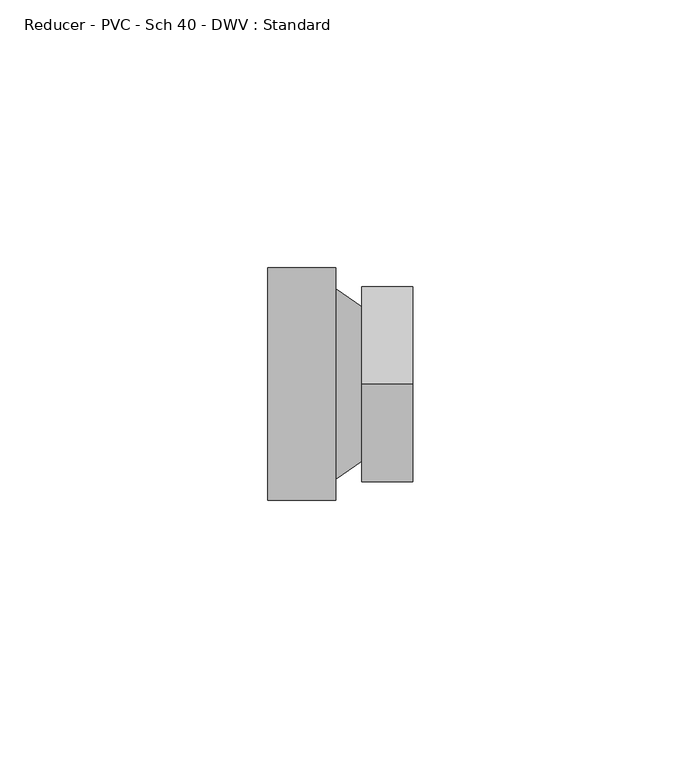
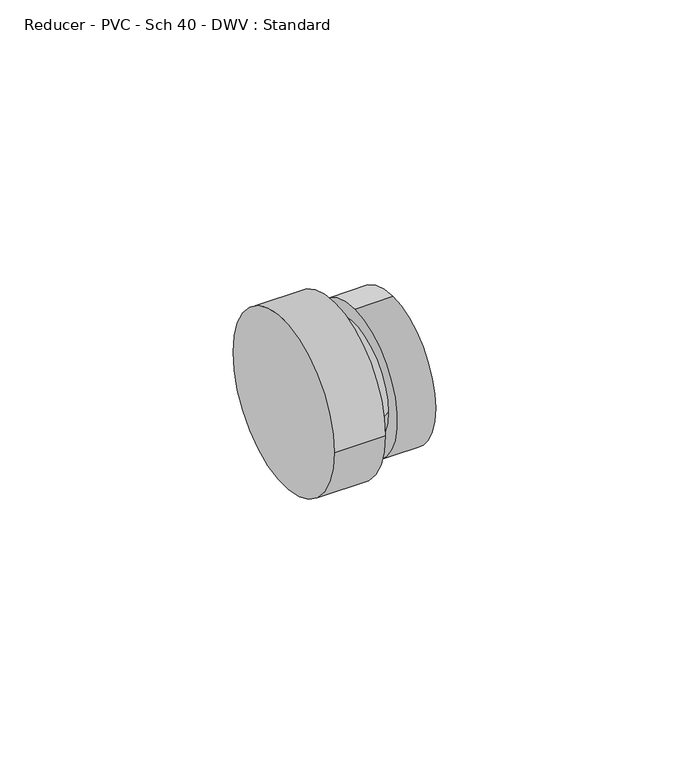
"""IFC4 building model written with IfcOpenShell, lengths in millimetres: pipe fitting geometry, Reducer - PVC - Sch 40 - DWV : Standard."""

import ifcopenshell
import ifcopenshell.guid

model = None  # the IFC model being written
_history = None  # IfcOwnerHistory: only IFC2X3 demands one
_inside = {}  # id of a spatial element -> (the spatial element, [elements in it])
_under = {}  # id of a project, library or spatial element -> (it, [spatial elements below it])
_declared = {}  # id of a project -> (the project, [libraries it declares])
_typed = {}  # id of a type object -> (the type object, [elements of that type])
_made_of = {}  # id of a material, layer set ... -> (it, [elements and type objects made of it])


def new_model(schema):
    """Start an empty IFC model of exactly this schema.

    Asked for "IFC4X3", IfcOpenShell would pick the latest addendum, in which some entities
    have other attributes; the version numbers below select the first issue.
    IFC2X3 requires an IfcOwnerHistory on every rooted entity: one is made here for all.
    """
    global model, _history
    if schema == "IFC4X3":
        model = ifcopenshell.file(schema_version=(4, 3, 0, 0))
    else:
        model = ifcopenshell.file(schema=schema)
    _inside.clear()
    _under.clear()
    _declared.clear()
    _typed.clear()
    _made_of.clear()
    _history = None
    if model.schema == "IFC2X3":
        org = make("IfcOrganization", Name="unknown")
        user = make(
            "IfcPersonAndOrganization",
            ThePerson=make("IfcPerson", FamilyName="unknown"),
            TheOrganization=org,
        )
        app = make(
            "IfcApplication",
            ApplicationDeveloper=org,
            Version="unknown",
            ApplicationFullName="unknown",
            ApplicationIdentifier="unknown",
        )
        _history = make(
            "IfcOwnerHistory",
            OwningUser=user,
            OwningApplication=app,
            ChangeAction="ADDED",
            CreationDate=0,
        )
    return model


def make(cls, **values):
    """One entity of the class cls with the attributes given. An attribute that is None is left unset."""
    return model.create_entity(
        cls, **{name: value for name, value in values.items() if value is not None}
    )


def rooted(cls, **values):
    """An entity with a GlobalId (a new one), such as an element, a storey or a relation."""
    return make(cls, GlobalId=ifcopenshell.guid.new(), OwnerHistory=_history, **values)


def si_unit(unit_type, name, prefix=None):
    """IfcSIUnit, for example si_unit("LENGTHUNIT", "METRE", prefix="MILLI")."""
    return make("IfcSIUnit", UnitType=unit_type, Prefix=prefix, Name=name)


def assignment(units):
    """IfcUnitAssignment: the units of a project."""
    return None if units is None else make("IfcUnitAssignment", Units=units)


def point(xyz):
    """IfcCartesianPoint."""
    return None if xyz is None else make("IfcCartesianPoint", Coordinates=xyz)


def direction(xyz):
    """IfcDirection."""
    return None if xyz is None else make("IfcDirection", DirectionRatios=xyz)


def frame(location, z_axis=None, x_axis=None):
    """IfcAxis2Placement3D, a coordinate frame: its origin and axes. An axis left out is left unset."""
    return make(
        "IfcAxis2Placement3D",
        Location=point(location),
        Axis=direction(z_axis),
        RefDirection=direction(x_axis),
    )


def origin():
    """The frame at (0, 0, 0) with its axes left unset."""
    return frame((0.0, 0.0, 0.0))


def place(relative_to, where):
    """IfcLocalPlacement: puts the frame where relative to a parent placement (None: the world)."""
    return make(
        "IfcLocalPlacement", PlacementRelTo=relative_to, RelativePlacement=where
    )


def context(
    kind, dimensions, precision=None, world=None, true_north=None, identifier=None
):
    """IfcGeometricRepresentationContext, for example the 3D "Model" context."""
    return make(
        "IfcGeometricRepresentationContext",
        ContextIdentifier=identifier,
        ContextType=kind,
        CoordinateSpaceDimension=dimensions,
        Precision=precision,
        WorldCoordinateSystem=world,
        TrueNorth=true_north,
    )


def project(units=None, contexts=None):
    """IfcProject with its units and contexts."""
    return rooted(
        "IfcProject",
        Name="project",
        RepresentationContexts=contexts,
        UnitsInContext=assignment(units),
    )


def spatial(cls, under=None, at=None, **own):
    """A site, building, storey or space (cls), placed at a placement, below another one or the project."""
    s = rooted(cls, ObjectPlacement=at, **own)
    if under is not None:
        _under.setdefault(under.id(), (under, []))[1].append(s)
    return s


def polyline(points):
    """IfcPolyline through the points."""
    return make("IfcPolyline", Points=[point(p) for p in points])


def circle_curve(where, radius):
    """IfcCircle in the frame where."""
    return make("IfcCircle", Position=where, Radius=radius)


def shape(context_of_items, identifier, shape_type, items):
    """IfcShapeRepresentation: the items that make up one representation, for example the "Body"."""
    return make(
        "IfcShapeRepresentation",
        ContextOfItems=context_of_items,
        RepresentationIdentifier=identifier,
        RepresentationType=shape_type,
        Items=items,
    )


def source(mapping_origin, context_of_items, identifier, shape_type, items):
    """IfcRepresentationMap: a shape defined once, which mapped items show again and again."""
    return make(
        "IfcRepresentationMap",
        MappingOrigin=mapping_origin,
        MappedRepresentation=shape(context_of_items, identifier, shape_type, items),
    )


def transform(
    local_origin,
    x_axis=None,
    y_axis=None,
    z_axis=None,
    scale=None,
    scale2=None,
    scale3=None,
    uniform=True,
):
    """IfcCartesianTransformationOperator3D, or its non-uniform kind. x_axis, y_axis, z_axis: its Axis1, 2, 3."""
    if uniform:
        return make(
            "IfcCartesianTransformationOperator3D",
            Axis1=direction(x_axis),
            Axis2=direction(y_axis),
            LocalOrigin=point(local_origin),
            Scale=scale,
            Axis3=direction(z_axis),
        )
    return make(
        "IfcCartesianTransformationOperator3DnonUniform",
        Axis1=direction(x_axis),
        Axis2=direction(y_axis),
        LocalOrigin=point(local_origin),
        Scale=scale,
        Axis3=direction(z_axis),
        Scale2=scale2,
        Scale3=scale3,
    )


def mapped(mapping_source, mapping_target):
    """IfcMappedItem: shows the shape of a source again, moved by a transform."""
    return make(
        "IfcMappedItem", MappingSource=mapping_source, MappingTarget=mapping_target
    )


def made_of(thing, what):
    """Note that an element or type object is made of a material, layer set ...; save() writes the relation."""
    if what is not None:
        _made_of.setdefault(what.id(), (what, []))[1].append(thing)
    return thing


def element(
    cls,
    number,
    at=None,
    inside=None,
    cuts=None,
    type_object=None,
    material=None,
    context=None,
    identifier="Body",
    shape_type=None,
    held_by="IfcProductDefinitionShape",
    body=None,
    shapes=None,
    **own,
):
    """One element of the class cls, such as IfcWall. Its Tag is "e" and its number.

    at: its placement. inside: the storey or other place that contains it. cuts: it is an
    opening in that element (IfcRelVoidsElement). A single representation is given by context,
    identifier, shape_type and body (its items); several are given by shapes. held_by: the class
    of the entity that holds the representations. save() writes the other relations.
    """
    e = rooted(cls, Tag="e%d" % number, ObjectPlacement=at, **own)
    if body is not None:
        shapes = [shape(context, identifier, shape_type, body)]
    if shapes is not None:
        e.Representation = make(held_by, Representations=shapes)
    if inside is not None:
        _inside.setdefault(inside.id(), (inside, []))[1].append(e)
    if cuts is not None:
        rooted(
            "IfcRelVoidsElement", RelatingBuildingElement=cuts, RelatedOpeningElement=e
        )
    if type_object is not None:
        _typed.setdefault(type_object.id(), (type_object, []))[1].append(e)
    return made_of(e, material)


def aggregate(whole, parts):
    """IfcRelAggregates: a whole, such as a stair, and the parts it consists of."""
    return rooted("IfcRelAggregates", RelatingObject=whole, RelatedObjects=parts)


def save(model, path):
    """Write the relations noted so far, then the file.

    IfcRelAggregates (storeys below a building ...), IfcRelContainedInSpatialStructure (elements
    in a storey), IfcRelDefinesByType, IfcRelAssociatesMaterial and IfcRelDeclares: one each for
    every whole, place, type object, material and project.
    """
    for whole, parts in _under.values():
        aggregate(whole, parts)
    for where, things in _inside.values():
        rooted(
            "IfcRelContainedInSpatialStructure",
            RelatedElements=things,
            RelatingStructure=where,
        )
    for kind, things in _typed.values():
        rooted("IfcRelDefinesByType", RelatedObjects=things, RelatingType=kind)
    for what, things in _made_of.values():
        rooted("IfcRelAssociatesMaterial", RelatedObjects=things, RelatingMaterial=what)
    for by, libraries in _declared.values():
        rooted("IfcRelDeclares", RelatingContext=by, RelatedDefinitions=libraries)
    model.write(path)


def plane_surface(at):
    """IfcPlane: the flat surface through the origin of the frame at, square to its z axis."""
    return make("IfcPlane", Position=at)


def cylinder_surface(at, radius):
    """IfcCylindricalSurface: all points at the distance radius from the z axis of the frame at."""
    return make("IfcCylindricalSurface", Position=at, Radius=radius)


def revolved_surface(curve, axis_point, axis_direction):
    """IfcSurfaceOfRevolution: the curve turned about the line through axis_point along axis_direction."""
    return make(
        "IfcSurfaceOfRevolution",
        SweptCurve=make("IfcArbitraryOpenProfileDef", ProfileType="CURVE", Curve=curve),
        AxisPosition=make("IfcAxis1Placement", Location=point(axis_point), Axis=direction(axis_direction)),
    )


def advanced_brep(points, edges, surfaces, faces):
    """IfcAdvancedBrep: a solid bounded by faces that lie on surfaces and meet in shared edges.

    An edge is (start, end): straight between two places in points (the first is 0);
    or (start, end, curve); or (start, end, curve, False) where it runs against its curve.
    A face is (place in surfaces, loops), or (place, loops, False) where it looks against
    its surface's normal. A loop lists edges by number (the first is 1), with a minus sign
    where the edge is run from its end to its start. The first loop is the outer one.
    """
    corners = [point(p) for p in points]
    vertices = [make("IfcVertexPoint", VertexGeometry=c) for c in corners]
    made = []
    for start, end, *more in edges:
        made.append(
            make(
                "IfcEdgeCurve",
                EdgeStart=vertices[start],
                EdgeEnd=vertices[end],
                EdgeGeometry=more[0] if more else make("IfcPolyline", Points=[corners[start], corners[end]]),
                SameSense=more[1] if len(more) > 1 else True,
            )
        )
    hull = []
    for where, loops, *sense in faces:
        bounds = []
        for j, loop in enumerate(loops):
            ring = [make("IfcOrientedEdge", EdgeElement=made[abs(k) - 1], Orientation=k > 0) for k in loop]
            bounds.append(
                make(
                    "IfcFaceOuterBound" if j == 0 else "IfcFaceBound",
                    Bound=make("IfcEdgeLoop", EdgeList=ring),
                    Orientation=True,
                )
            )
        hull.append(make("IfcAdvancedFace", Bounds=bounds, FaceSurface=surfaces[where], SameSense=sense[0] if sense else True))
    return make("IfcAdvancedBrep", Outer=make("IfcClosedShell", CfsFaces=hull))


def reducer_pvc_sch_40_dwv_standard_0d64fc83(model_context):
    return source(origin(), model_context, "Body", "AdvancedBrep", [
        advanced_brep(
        [(0.0, -21.7031094, 0.0), (0.0, 21.7031094, 0.0), (12.7, -21.7031094, 0.0), (12.7, 21.7031094, 0.0), (12.7, 17.7720625, 0.0), (12.7, -17.7720625, 0.0), (17.5775938, 14.4700625, 0.0), (17.5775937, -14.4700625, 0.0), (17.5775938, 0.0, 18.2741094), (17.5775938, 0.0, -18.2741094), (27.1025938, 0.0, 18.2741094), (27.1025938, 0.0, -18.2741094)],
        [
            (0, 1, circle_curve(frame((0.0, 0.0, 0.0), z_axis=(-1.0, 0.0, 0.0), x_axis=(0.0, 1.0, 0.0)), 21.7031094)),
            (1, 0, circle_curve(frame((0.0, 0.0, 0.0), z_axis=(-1.0, 0.0, 0.0), x_axis=(0.0, 1.0, 0.0)), 21.7031094)),
            (2, 3, circle_curve(frame((12.7, 0.0, 0.0), z_axis=(1.0, 0.0, 0.0), x_axis=(0.0, 1.0, 0.0)), 21.7031094)),
            (3, 2, circle_curve(frame((12.7, 0.0, 0.0), z_axis=(1.0, 0.0, 0.0), x_axis=(0.0, 1.0, 0.0)), 21.7031094)),
            (4, 5, circle_curve(frame((12.7, 0.0, 0.0), z_axis=(-1.0, 1.2071710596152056e-12, 0.0), x_axis=(-1.2070766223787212e-12, -1.0, 0.0)), 17.7720625)),
            (5, 4, circle_curve(frame((12.7, 0.0, 0.0), z_axis=(-1.0, 1.2071710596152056e-12, 0.0), x_axis=(1.2070766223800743e-12, 1.0, 0.0)), 17.7720625)),
            (0, 2),
            (3, 1),
            (4, 6),
            (6, 7, circle_curve(frame((17.5775938, 0.0, 0.0), z_axis=(-1.0, 1.2071710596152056e-12, 0.0), x_axis=(-1.2070766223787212e-12, -1.0, 0.0)), 14.4700625)),
            (7, 5),
            (7, 6, circle_curve(frame((17.5775938, 0.0, 0.0), z_axis=(-1.0, 1.2071710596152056e-12, 0.0), x_axis=(1.2070766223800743e-12, 1.0, 0.0)), 14.4700625)),
            (8, 9, circle_curve(frame((17.5775938, 0.0, 0.0), z_axis=(-1.0, 0.0, 0.0), x_axis=(0.0, 0.0, -1.0)), 18.2741094)),
            (9, 8, circle_curve(frame((17.5775938, 0.0, 0.0), z_axis=(-1.0, 0.0, 0.0), x_axis=(0.0, 0.0, -1.0)), 18.2741094)),
            (10, 11, circle_curve(frame((27.1025938, 0.0, 0.0), z_axis=(1.0, 0.0, 0.0), x_axis=(0.0, 0.0, -1.0)), 18.2741094)),
            (11, 10, circle_curve(frame((27.1025938, 0.0, 0.0), z_axis=(1.0, 0.0, 0.0), x_axis=(0.0, 0.0, -1.0)), 18.2741094)),
            (8, 10),
            (11, 9),
        ],
        [
            plane_surface(frame((0.0, 0.0, 0.0), z_axis=(-1.0, 0.0, 0.0), x_axis=(0.0, 0.0, 1.0))),
            plane_surface(frame((12.7, 0.0, 0.0), z_axis=(1.0, 0.0, 0.0), x_axis=(0.0, 0.0, 1.0))),
            cylinder_surface(frame((0.0, 0.0, 0.0), z_axis=(-1.0, 0.0, 0.0), x_axis=(0.0, 1.0, 0.0)), 21.7031094),
            revolved_surface(polyline([(17.577593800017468, 14.470062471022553, 0.0), (12.7, 17.7720625, 0.0)]), (38.9522414, 0.0, 0.0), (-1.0, 1.2071710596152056e-12, 0.0)),
            plane_surface(frame((17.5775938, 0.0, 0.0), z_axis=(-1.0, 0.0, 0.0), x_axis=(0.0, 1.0, 0.0))),
            plane_surface(frame((27.1025938, 0.0, 0.0), z_axis=(1.0, 0.0, 0.0), x_axis=(0.0, 1.0, 0.0))),
            cylinder_surface(frame((17.5775938, 0.0, 0.0), z_axis=(-1.0, 0.0, 0.0), x_axis=(0.0, 0.0, -1.0)), 18.2741094),
        ],
        [
            (0, [[1, 2]]),
            (1, [[3, 4], [5, 6]]),
            (2, [[-1, 7, -4, 8]]),
            (2, [[-2, -8, -3, -7]]),
            (3, [[9, 10, 11, -5]]),
            (3, [[-9, -6, -11, 12]]),
            (4, [[13, 14], [-10, -12]]),
            (5, [[15, 16]]),
            (6, [[-13, 17, -16, 18]]),
            (6, [[-14, -18, -15, -17]]),
        ],
    ),
    ])


if __name__ == "__main__":
    model = new_model("IFC4")
    model_context = context("Model", 3, world=origin())
    ifc_project = project(units=[si_unit("LENGTHUNIT", "METRE", prefix="MILLI")], contexts=[model_context])
    site = spatial("IfcSite", under=ifc_project)
    building = spatial("IfcBuilding", under=site)
    placement = place(None, origin())
    reducer_pvc_sch_40_dwv_standard_shape = reducer_pvc_sch_40_dwv_standard_0d64fc83(model_context)
    element("IfcPipeFitting", 1, ObjectType="Reducer - PVC - Sch 40 - DWV : Standard", at=placement, inside=building, context=model_context, shape_type="MappedRepresentation", body=[
        mapped(reducer_pvc_sch_40_dwv_standard_shape, transform((0.0, 0.0, 0.0), x_axis=(1.0, 0.0, 0.0), y_axis=(0.0, 1.0, 0.0), z_axis=(0.0, 0.0, 1.0))),
    ])
    save(model, "model.ifc")
